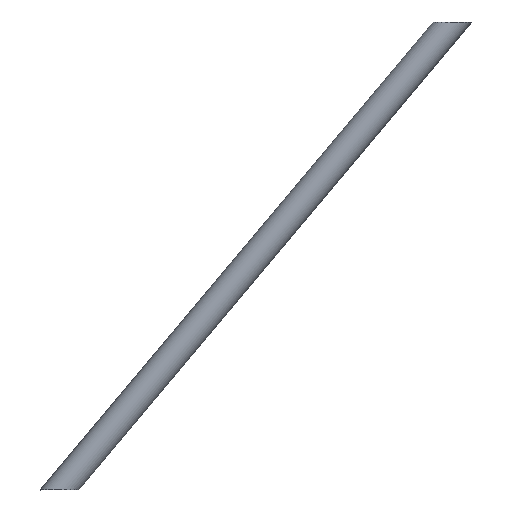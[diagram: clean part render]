
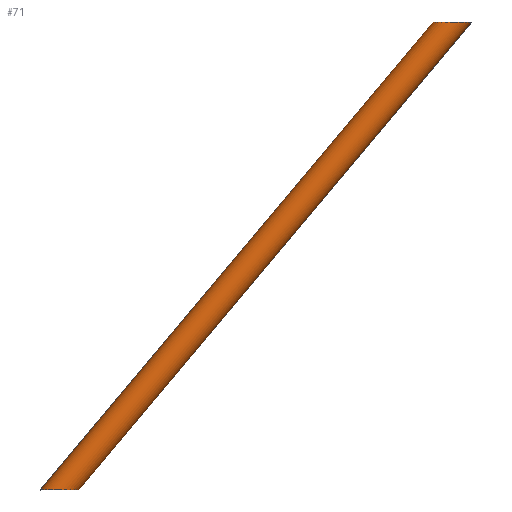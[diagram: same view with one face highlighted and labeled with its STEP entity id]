
A CAD part, front view. The second image highlights one B-rep face of the part: STEP entity #71.
In plain terms, the highlighted cylindrical face has radius 5 mm (diameter 10 mm), a full revolution.
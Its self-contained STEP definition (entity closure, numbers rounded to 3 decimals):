
#14=FACE_BOUND('',#26,.T.);
#15=CYLINDRICAL_SURFACE('',#94,5.);
#20=FACE_OUTER_BOUND('',#25,.T.);
#25=EDGE_LOOP('',(#53,#54));
#26=EDGE_LOOP('',(#55,#56));
#27=ELLIPSE('',#87,6.527,5.);
#28=ELLIPSE('',#89,6.527,5.);
#29=ELLIPSE('',#91,6.527,5.);
#30=ELLIPSE('',#93,6.527,5.);
#35=VERTEX_POINT('',#119);
#36=VERTEX_POINT('',#120);
#37=VERTEX_POINT('',#124);
#38=VERTEX_POINT('',#125);
#40=EDGE_CURVE('',#36,#35,#27,.T.);
#42=EDGE_CURVE('',#38,#37,#28,.T.);
#43=EDGE_CURVE('',#35,#36,#29,.T.);
#44=EDGE_CURVE('',#37,#38,#30,.T.);
#53=ORIENTED_EDGE('',*,*,#43,.T.);
#54=ORIENTED_EDGE('',*,*,#40,.T.);
#55=ORIENTED_EDGE('',*,*,#42,.T.);
#56=ORIENTED_EDGE('',*,*,#44,.T.);
#71=ADVANCED_FACE('',(#20,#14),#15,.T.);
#87=AXIS2_PLACEMENT_3D('',#122,#100,#101);
#89=AXIS2_PLACEMENT_3D('',#127,#105,#106);
#91=AXIS2_PLACEMENT_3D('',#129,#109,#110);
#93=AXIS2_PLACEMENT_3D('',#131,#113,#114);
#94=AXIS2_PLACEMENT_3D('',#132,#115,#116);
#100=DIRECTION('center_axis',(0.,0.,
-1.));
#101=DIRECTION('ref_axis',(-1.,0.,0.));
#105=DIRECTION('center_axis',(0.,0.,
1.));
#106=DIRECTION('ref_axis',(-1.,0.,0.));
#109=DIRECTION('center_axis',(0.,0.,
-1.));
#110=DIRECTION('ref_axis',(-1.,0.,0.));
#113=DIRECTION('center_axis',(0.,0.,
1.));
#114=DIRECTION('ref_axis',(-1.,0.,0.));
#115=DIRECTION('center_axis',(-0.643,0.,-0.766));
#116=DIRECTION('ref_axis',(-0.766,0.,0.643));
#119=CARTESIAN_POINT('',(527.379,0.,-16.));
#120=CARTESIAN_POINT('',(514.325,0.,-16.));
#122=CARTESIAN_POINT('Origin',(520.852,0.,-16.));
#124=CARTESIAN_POINT('',(394.801,0.,-174.));
#125=CARTESIAN_POINT('',(381.747,0.,-174.));
#127=CARTESIAN_POINT('Origin',(388.274,0.,-174.));
#129=CARTESIAN_POINT('Origin',(520.852,0.,-16.));
#131=CARTESIAN_POINT('Origin',(388.274,0.,-174.));
#132=CARTESIAN_POINT('Origin',(454.563,0.,-95.));
